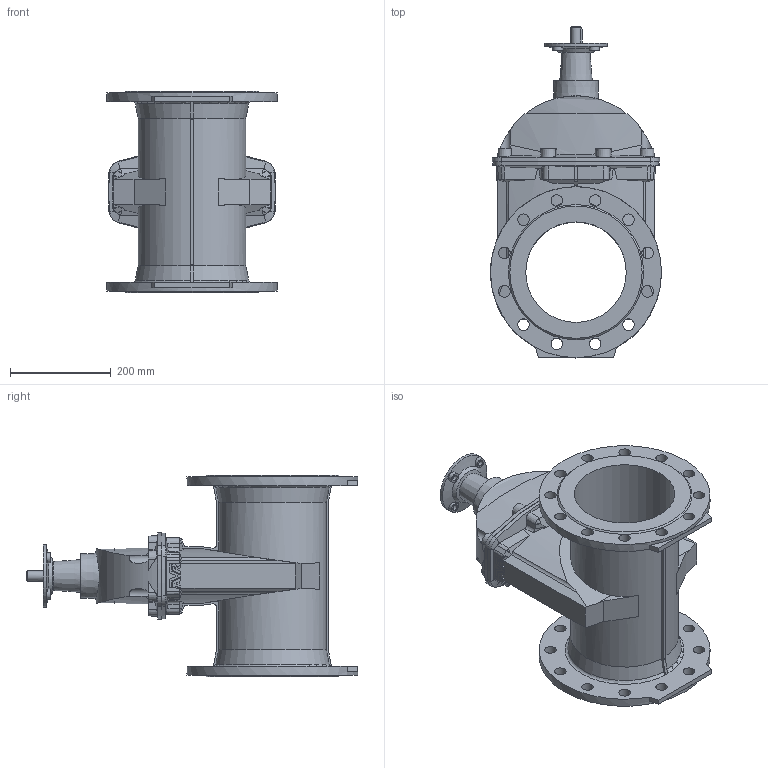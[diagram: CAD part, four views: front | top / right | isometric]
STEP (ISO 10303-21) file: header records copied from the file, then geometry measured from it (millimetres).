
FILE_DESCRIPTION (( 'STEP AP203' ), '1' );
FILE_NAME ('O_15_72_DN200_X1XXX099_AA0.step', '2017-03-10T08:57:20', ( 'Windows User' ), ( 'AVK' ), 'SwSTEP 2.0', 'SolidWorks 2012', '' );
FILE_SCHEMA (( 'CONFIG_CONTROL_DESIGN' ));
Length unit declared in the file: inch
Products named in the file (1): O_15_72_DN200_X1XXX099_AA0
Bounding box: 340 x 660 x 400 mm (x, y, z)
Volume: 12866247.1 mm3; surface area: 1079593.6 mm2
Topology: 1 solids, 1 shells, 374 faces, 1067 edges, 696 vertices
Faces by surface type: plane 169, cylinder 103, cone 86, sphere 10, bspline 4, torus 2
Full cylindrical faces by diameter (mm): 12 x4, 20 x5, 23 x24, 125 x1, 200 x1, 340 x2
Entity records: 13880 total; most frequent: CARTESIAN_POINT 4750, ORIENTED_EDGE 1944, DIRECTION 1728, EDGE_CURVE 972, VERTEX_POINT 660, AXIS2_PLACEMENT_3D 622, EDGE_LOOP 492, LINE 484
